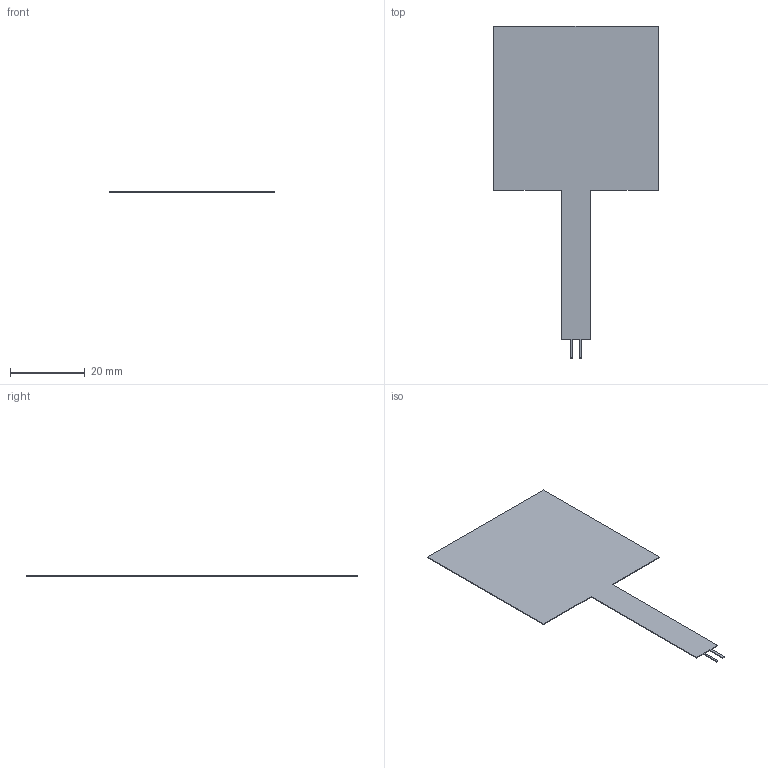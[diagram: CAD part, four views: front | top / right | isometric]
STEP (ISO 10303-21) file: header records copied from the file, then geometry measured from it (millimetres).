
FILE_DESCRIPTION(/* description */ ('Alibre Inc.'),/* implementation_level */ '2;1');
FILE_NAME(/* name */ 'export0',/* time_stamp */ '2013-07-17T13:54:55-06:00',/* author */ (''),/* organization */ (''),/* preprocessor_version */ 'ST-DEVELOPER v14',/* originating_system */ 'Alibre',/* authorisation */ '');
FILE_SCHEMA (('ALIBRE_SCHEMA','CONFIG_CONTROL_DESIGN'));
Length unit declared in the file: centimetre
Products named in the file (1): ID_1
Bounding box: 44 x 89 x 0.2 mm (x, y, z)
Volume: 452.4 mm3; surface area: 4579.2 mm2
Topology: 1 solids, 1 shells, 18 faces, 48 edges, 32 vertices
Faces by surface type: plane 18
Entity records: 1469 total; most frequent: CARTESIAN_POINT 186, DIRECTION 126, VECTOR 101, ORIENTED_EDGE 96, CONSTRAINTPAIRUV 90, LINE 74, REFERENCEDEPENDENTUV 70, EDGE_CURVE 48
